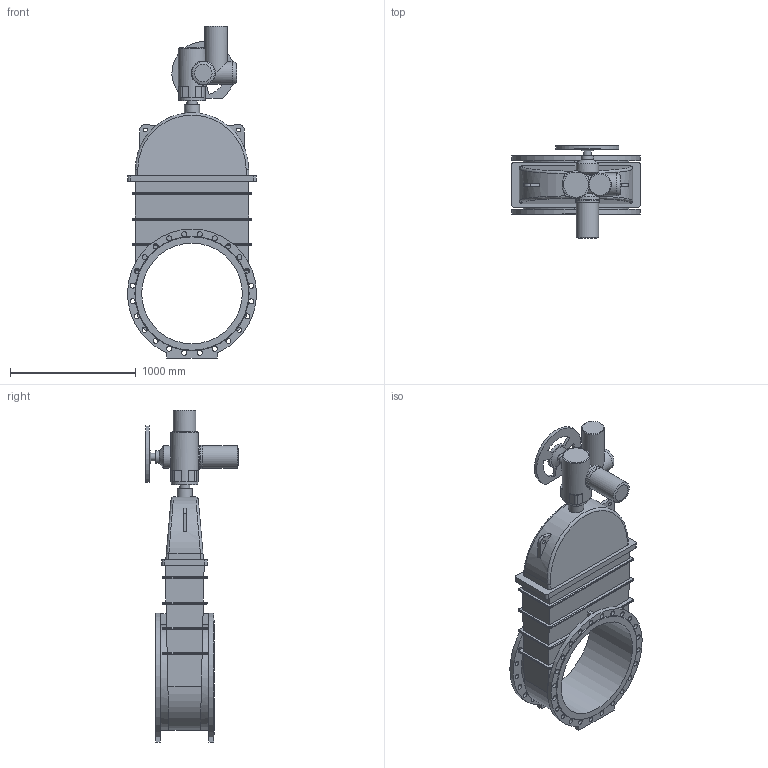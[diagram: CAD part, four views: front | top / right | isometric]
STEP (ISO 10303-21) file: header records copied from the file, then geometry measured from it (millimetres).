
FILE_DESCRIPTION(('STEP AP203'), '1');
FILE_NAME('青溻桄赅 47GVA.Z DN800 PN10_PN16 +MT903.A80', '', ('UNSPECIFIED'), ('UNSPECIFIED'), 'ASCON STEP Converter 1.6', 'ASCON Math Kernel', '');
FILE_SCHEMA(('CONFIG_CONTROL_DESIGN'));
Length unit declared in the file: millimetre
Bounding box: 1024.56 x 733 x 2638.5 mm (x, y, z)
Volume: 373314206.3 mm3; surface area: 8384527.4 mm2
Topology: 2 solids, 2 shells, 364 faces, 921 edges, 588 vertices
Faces by surface type: cylinder 171, plane 147, bspline 34, cone 11, torus 1
Full cylindrical faces by diameter (mm): 17.5 x4, 22 x4, 30 x2, 40 x49, 60 x1, 80 x1, 100 x1, 120 x1, 130 x2, 140 x1, 180 x4, 187 x1, 191 x1, 210 x1, 220 x1, 800 x1
Entity records: 18482 total; most frequent: CARTESIAN_POINT 7103, ORIENTED_EDGE 1668, DIRECTION 1655, EDGE_CURVE 834, AXIS2_PLACEMENT_3D 628, EDGE_LOOP 593, VERTEX_POINT 587, FACE_BOUND 431
